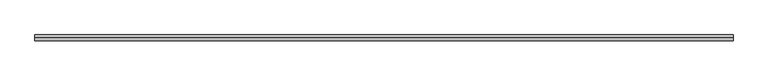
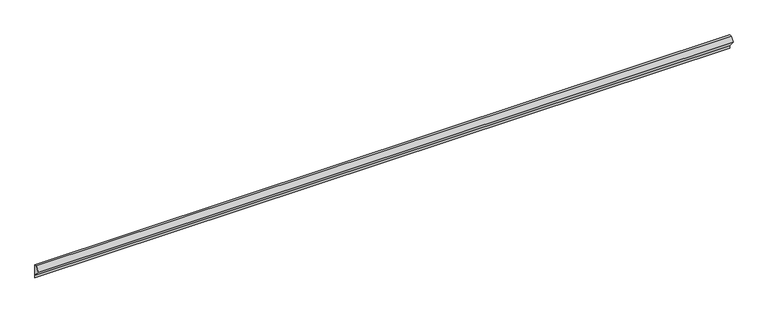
"""IFC4 building model written with IfcOpenShell, lengths in millimetres: plate geometry, ATELIERS 3S_GLACE JORASSES 900_HORIZONTAL : AZURO."""

from ifc_helpers import new_model, si_unit, frame, origin, place, context, project, spatial, polyline, outline, extrude, source, transform, mapped, element, save


def plate_5a031bc4(model_context):
    return source(origin(), model_context, "Body", "SweptSolid", [
        extrude(outline(polyline([(-0.8, 0.0), (-0.8, 17.5947955), (-40.9604686, 67.7953813), (-15.1967736, 100.0), (0.0, 100.0), (0.0, 0.0), (-0.8, 0.0)])), frame((-2500.0, 0.0, 0.0), z_axis=(1.0, 0.0, 0.0), x_axis=(0.0, 1.0, 0.0)), (0.0, 0.0, 1.0), 5000.0),
    ])


if __name__ == "__main__":
    model = new_model("IFC4")
    model_context = context("Model", 3, world=origin())
    ifc_project = project(units=[si_unit("LENGTHUNIT", "METRE", prefix="MILLI")], contexts=[model_context])
    site = spatial("IfcSite", under=ifc_project)
    building = spatial("IfcBuilding", under=site)
    placement = place(None, origin())
    plate_shape = plate_5a031bc4(model_context)
    element("IfcPlate", 1, ObjectType="ATELIERS 3S_GLACE JORASSES 900_HORIZONTAL : AZURO", at=placement, inside=building, context=model_context, shape_type="MappedRepresentation", body=[
        mapped(plate_shape, transform((0.0, 0.0, 0.0), x_axis=(1.0, 0.0, 0.0), y_axis=(0.0, 1.0, 0.0), z_axis=(0.0, 0.0, 1.0))),
    ])
    save(model, "model.ifc")
